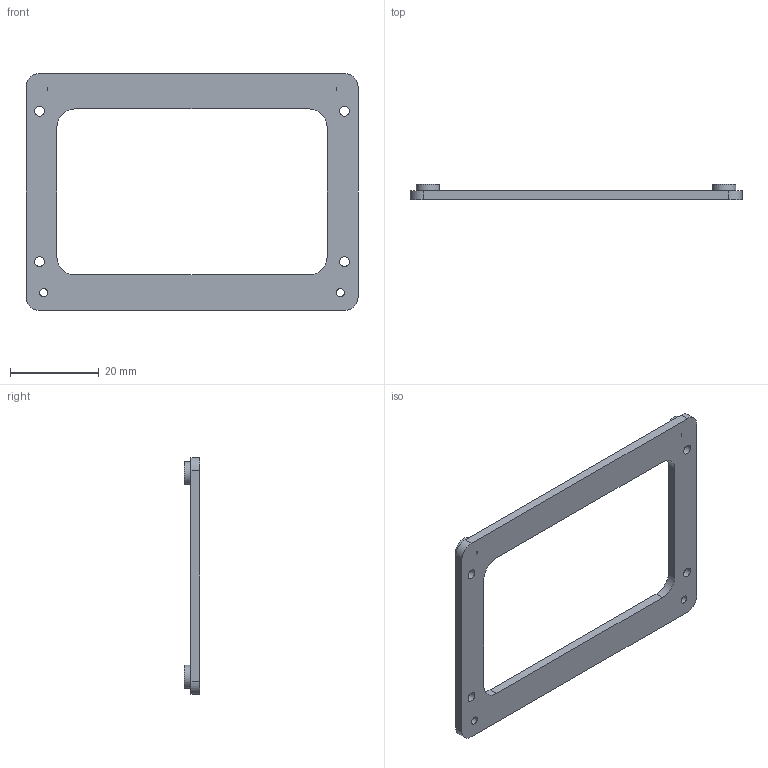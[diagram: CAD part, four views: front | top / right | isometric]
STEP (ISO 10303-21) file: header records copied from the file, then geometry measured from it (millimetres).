
FILE_DESCRIPTION(('Open CASCADE Model'),'2;1');
FILE_NAME('Open CASCADE Shape Model','2026-11-01T16:34:13',('Author'),( 'Open CASCADE'),'Open CASCADE STEP processor 8.0','build123d', 'Unknown');
FILE_SCHEMA(('AUTOMOTIVE_DESIGN { 1 0 10303 214 1 1 1 1 }'));
Length unit declared in the file: millimetre
Products named in the file (1): SOLID
Bounding box: 75 x 3.5 x 53.5 mm (x, y, z)
Volume: 3533.4 mm3; surface area: 4521.8 mm2
Topology: 1 solids, 1 shells, 38 faces, 96 edges, 64 vertices
Faces by surface type: cylinder 20, plane 18
Full cylindrical faces by diameter (mm): 1.8 x4, 2.2 x4, 5.2 x4
Entity records: 2462 total; most frequent: CARTESIAN_POINT 459, DIRECTION 382, ORIENTED_EDGE 192, PCURVE 192, DEFINITIONAL_REPRESENTATION 192, LINE 180, VECTOR 180, EDGE_CURVE 96
